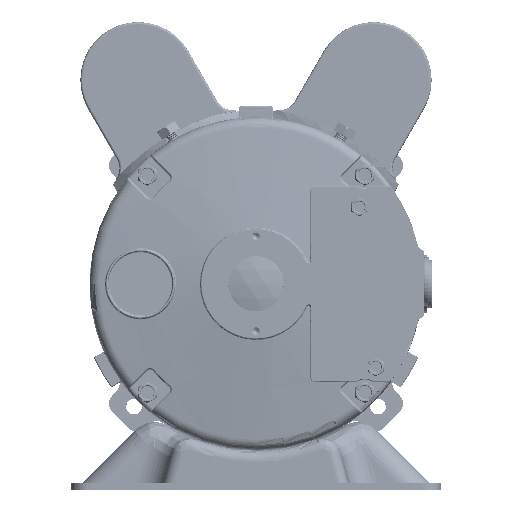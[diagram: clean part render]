
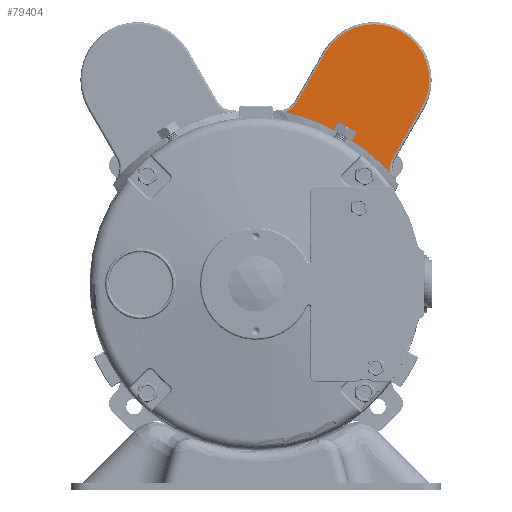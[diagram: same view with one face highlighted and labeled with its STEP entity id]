
A CAD part, top view. The second image highlights one B-rep face of the part: STEP entity #79404.
In plain terms, the highlighted planar face has unit normal (0, 0, 1).
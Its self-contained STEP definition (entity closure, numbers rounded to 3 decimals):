
#855 = EDGE_CURVE ( 'NONE', #78161, #71209, #45231, .T. ) ;
#1579 = CIRCLE ( 'NONE', #69229, 92. ) ;
#2390 = VERTEX_POINT ( 'NONE', #85462 ) ;
#6103 = EDGE_CURVE ( 'NONE', #33193, #78161, #19578, .T. ) ;
#6185 = EDGE_CURVE ( 'NONE', #71209, #40998, #8489, .T. ) ;
#8489 = CIRCLE ( 'NONE', #76103, 24. ) ;
#11089 = AXIS2_PLACEMENT_3D ( 'NONE', #25131, #62067, #98937 ) ;
#17285 = DIRECTION ( 'NONE',  ( 0., 1., 0. ) ) ;
#19578 = LINE ( 'NONE', #56506, #112777 ) ;
#22846 = CARTESIAN_POINT ( 'NONE',  ( -78.323, -36.097, 273. ) ) ;
#23174 = DIRECTION ( 'NONE',  ( 0., 0., 1. ) ) ;
#23374 = VERTEX_POINT ( 'NONE', #54387 ) ;
#25131 = CARTESIAN_POINT ( 'NONE',  ( -2.55, 29.145, 273. ) ) ;
#29943 = DIRECTION ( 'NONE',  ( 0., 1., 0. ) ) ;
#33193 = VERTEX_POINT ( 'NONE', #95189 ) ;
#33276 = CIRCLE ( 'NONE', #100885, 9. ) ;
#34523 = DIRECTION ( 'NONE',  ( -0.5, -0.866, 0. ) ) ;
#35010 = DIRECTION ( 'NONE',  ( 0., 0., -1. ) ) ;
#37853 = VECTOR ( 'NONE', #34523, 1000. ) ;
#38848 = EDGE_LOOP ( 'NONE', ( #40797, #82237, #55730, #94766, #64357, #74269, #109727 ) ) ;
#38871 = EDGE_CURVE ( 'NONE', #23374, #33193, #63293, .T. ) ;
#40797 = ORIENTED_EDGE ( 'NONE', *, *, #78085, .T. ) ;
#40998 = VERTEX_POINT ( 'NONE', #104190 ) ;
#45231 = CIRCLE ( 'NONE', #85793, 24. ) ;
#47663 = CARTESIAN_POINT ( 'NONE',  ( 2.197, 55.367, 273. ) ) ;
#54387 = CARTESIAN_POINT ( 'NONE',  ( -11.262, 26.886, 273. ) ) ;
#55730 = ORIENTED_EDGE ( 'NONE', *, *, #6103, .T. ) ;
#56506 = CARTESIAN_POINT ( 'NONE',  ( -57.538, -48.097, 273. ) ) ;
#59778 = DIRECTION ( 'NONE',  ( 0., 0., -1. ) ) ;
#60116 = DIRECTION ( 'NONE',  ( 0., 1., 0. ) ) ;
#62067 = DIRECTION ( 'NONE',  ( 0., 0., -1. ) ) ;
#62650 = VERTEX_POINT ( 'NONE', #64431 ) ;
#63293 = CIRCLE ( 'NONE', #11089, 9. ) ;
#63318 = CARTESIAN_POINT ( 'NONE',  ( -18.588, 67.367, 273. ) ) ;
#64357 = ORIENTED_EDGE ( 'NONE', *, *, #6185, .T. ) ;
#64431 = CARTESIAN_POINT ( 'NONE',  ( -57.308, 53.471, 273. ) ) ;
#68834 = FACE_OUTER_BOUND ( 'NONE', #38848, .T. ) ;
#69229 = AXIS2_PLACEMENT_3D ( 'NONE', #117878, #35010, #71930 ) ;
#71209 = VERTEX_POINT ( 'NONE', #88504 ) ;
#71930 = DIRECTION ( 'NONE',  ( 0.866, -0.5, 0. ) ) ;
#74269 = ORIENTED_EDGE ( 'NONE', *, *, #104702, .T. ) ;
#75949 = CARTESIAN_POINT ( 'NONE',  ( -59.708, 62.145, 273. ) ) ;
#76103 = AXIS2_PLACEMENT_3D ( 'NONE', #106067, #23174, #60116 ) ;
#77406 = AXIS2_PLACEMENT_3D ( 'NONE', #22846, #59778, #96630 ) ;
#78085 = EDGE_CURVE ( 'NONE', #62650, #23374, #1579, .T. ) ;
#78161 = VERTEX_POINT ( 'NONE', #47663 ) ;
#79404 = ADVANCED_FACE ( 'NONE', ( #68834 ), #105727, .F. ) ;
#80512 = LINE ( 'NONE', #117401, #37853 ) ;
#82237 = ORIENTED_EDGE ( 'NONE', *, *, #38871, .T. ) ;
#85462 = CARTESIAN_POINT ( 'NONE',  ( -51.914, 57.645, 273. ) ) ;
#85793 = AXIS2_PLACEMENT_3D ( 'NONE', #63318, #100191, #17285 ) ;
#88504 = CARTESIAN_POINT ( 'NONE',  ( -18.588, 91.367, 273. ) ) ;
#91702 = EDGE_CURVE ( 'NONE', #2390, #62650, #33276, .T. ) ;
#93380 = DIRECTION ( 'NONE',  ( 0.5, 0.866, 0. ) ) ;
#94766 = ORIENTED_EDGE ( 'NONE', *, *, #855, .T. ) ;
#95189 = CARTESIAN_POINT ( 'NONE',  ( -10.344, 33.645, 273. ) ) ;
#96630 = DIRECTION ( 'NONE',  ( 1., 0., 0. ) ) ;
#98937 = DIRECTION ( 'NONE',  ( 0., 1., 0. ) ) ;
#100191 = DIRECTION ( 'NONE',  ( 0., 0., 1. ) ) ;
#100885 = AXIS2_PLACEMENT_3D ( 'NONE', #75949, #112819, #29943 ) ;
#104190 = CARTESIAN_POINT ( 'NONE',  ( -39.372, 79.367, 273. ) ) ;
#104702 = EDGE_CURVE ( 'NONE', #40998, #2390, #80512, .T. ) ;
#105727 = PLANE ( 'NONE',  #77406 ) ;
#106067 = CARTESIAN_POINT ( 'NONE',  ( -18.588, 67.367, 273. ) ) ;
#109727 = ORIENTED_EDGE ( 'NONE', *, *, #91702, .T. ) ;
#112777 = VECTOR ( 'NONE', #93380, 1000. ) ;
#112819 = DIRECTION ( 'NONE',  ( 0., 0., -1. ) ) ;
#117401 = CARTESIAN_POINT ( 'NONE',  ( -99.107, -24.097, 273. ) ) ;
#117878 = CARTESIAN_POINT ( 'NONE',  ( -78.323, -36.097, 273. ) ) ;
